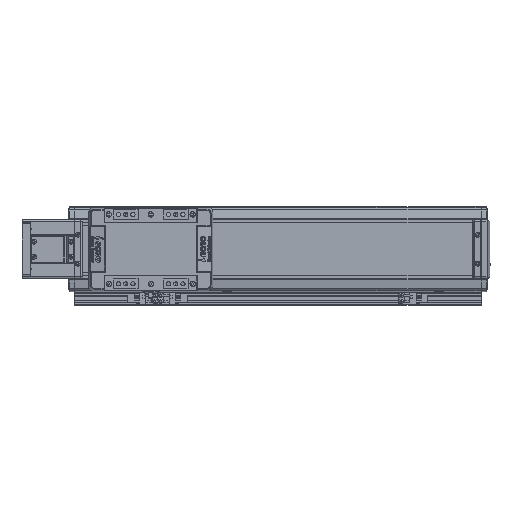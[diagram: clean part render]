
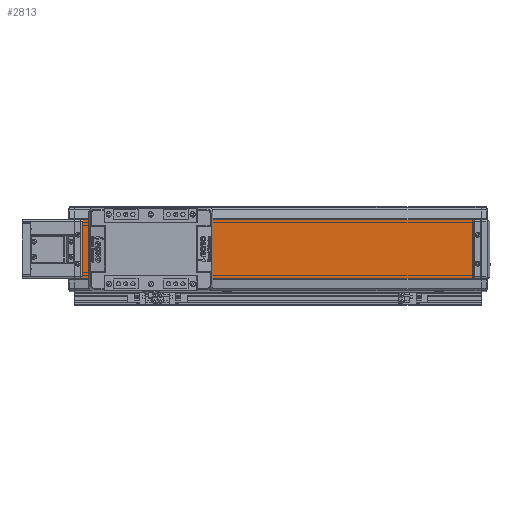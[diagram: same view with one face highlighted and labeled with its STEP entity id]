
A CAD part, top view. The second image highlights one B-rep face of the part: STEP entity #2813.
In plain terms, the highlighted planar face has unit normal (0, 0, 1).
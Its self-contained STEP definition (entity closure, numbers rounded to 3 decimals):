
#2813=ADVANCED_FACE('',(#5695),#5696,.T.);
#5695=FACE_OUTER_BOUND('',#11857,.T.);
#5696=PLANE('',#11858);
#11857=EDGE_LOOP('',(#18801,#18802,#18803,#18804));
#11858=AXIS2_PLACEMENT_3D('',#18805,#18806,#18807);
#18801=ORIENTED_EDGE('',*,*,#42371,.T.);
#18802=ORIENTED_EDGE('',*,*,#42372,.F.);
#18803=ORIENTED_EDGE('',*,*,#42373,.T.);
#18804=ORIENTED_EDGE('',*,*,#42368,.T.);
#18805=CARTESIAN_POINT('',(-580.,0.,20.15));
#18806=DIRECTION('',(0.,0.,1.0));
#18807=DIRECTION('',(0.,-1.0,0.));
#42368=EDGE_CURVE('',#49893,#49891,#49894,.T.);
#42371=EDGE_CURVE('',#49891,#49898,#49899,.T.);
#42372=EDGE_CURVE('',#49900,#49898,#49901,.T.);
#42373=EDGE_CURVE('',#49900,#49893,#49902,.T.);
#49891=VERTEX_POINT('',#62304);
#49893=VERTEX_POINT('',#62307);
#49894=LINE('',#62308,#62309);
#49898=VERTEX_POINT('',#62315);
#49899=LINE('',#62316,#62317);
#49900=VERTEX_POINT('',#62318);
#49901=LINE('',#62319,#62320);
#49902=LINE('',#62321,#62322);
#62304=CARTESIAN_POINT('',(-100.,-35.,20.15));
#62307=CARTESIAN_POINT('',(-580.,-35.,20.15));
#62308=CARTESIAN_POINT('',(-580.,-35.,20.15));
#62309=VECTOR('',#80935,10.0);
#62315=CARTESIAN_POINT('',(-100.,35.,20.15));
#62316=CARTESIAN_POINT('',(-100.,35.,20.15));
#62317=VECTOR('',#80938,10.0);
#62318=CARTESIAN_POINT('',(-580.,35.,20.15));
#62319=CARTESIAN_POINT('',(-580.,35.,20.15));
#62320=VECTOR('',#80939,10.0);
#62321=CARTESIAN_POINT('',(-580.,35.,20.15));
#62322=VECTOR('',#80940,10.0);
#80935=DIRECTION('',(1.0,0.,0.));
#80938=DIRECTION('',(0.,1.0,0.));
#80939=DIRECTION('',(1.0,0.,0.));
#80940=DIRECTION('',(0.,-1.0,0.));
